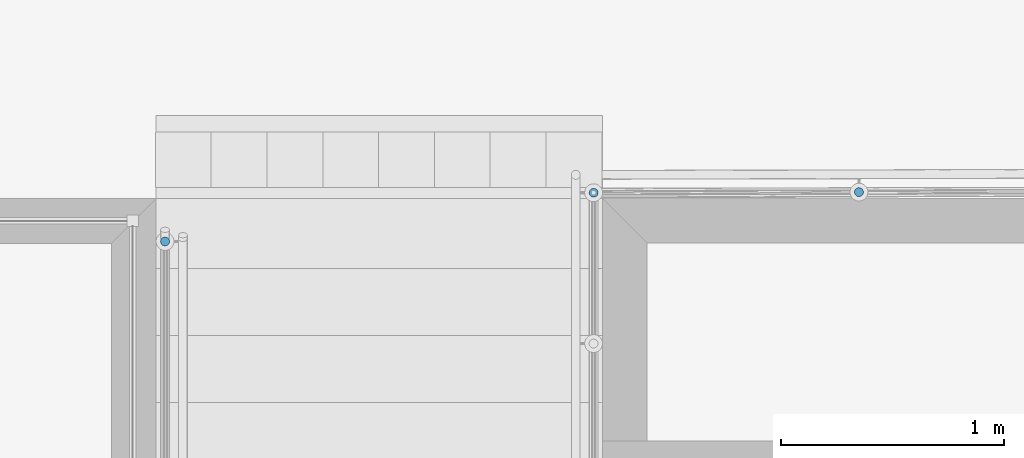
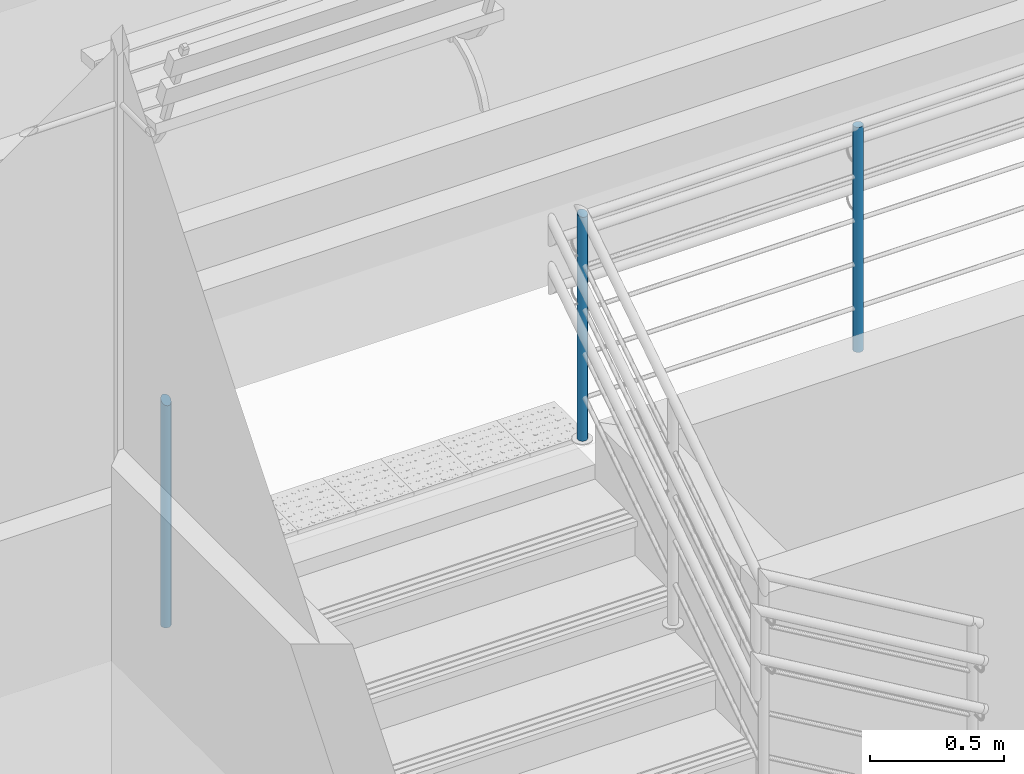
# One storey, part 67 of 237: 3 building element parts, 2 elements without a shape of their own.
"""IFC2X3 building model written with IfcOpenShell, lengths in millimetres."""

from ifc_helpers import new_model, entity, si_unit, converted_unit, derived_unit, money_unit, direction, frame, origin_with_axes, place, context, subcontext, project, spatial, faceted_brep, material, type_object, element, aggregate, save


model = new_model("IFC2X3")

# Units and contexts
model_context = context("Model", 3, precision=0.01, world=origin_with_axes(), true_north=direction((0.0, 1.0)))
body_context = subcontext(model_context, "Body", "Model", "MODEL_VIEW")
ifc_project = project(units=[si_unit("LENGTHUNIT", "METRE", prefix="MILLI"), si_unit("AREAUNIT", "SQUARE_METRE"), si_unit("VOLUMEUNIT", "CUBIC_METRE"), converted_unit("PLANEANGLEUNIT", "DEGREE", entity("IfcPlaneAngleMeasure", 0.0174532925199), si_unit("PLANEANGLEUNIT", "RADIAN"), dimensions=[0, 0, 0, 0, 0, 0, 0]), money_unit("USD"), converted_unit("TIMEUNIT", "Year", entity("IfcTimeMeasure", 31556926.0), si_unit("TIMEUNIT", "SECOND"), dimensions=[0, 0, 1, 0, 0, 0, 0]), si_unit("MASSUNIT", "GRAM", prefix="KILO"), si_unit("THERMODYNAMICTEMPERATUREUNIT", "DEGREE_CELSIUS"), si_unit("LUMINOUSINTENSITYUNIT", "LUMEN"), si_unit("ENERGYUNIT", "JOULE", prefix="MEGA"), derived_unit("THERMALCONDUCTANCEUNIT", [(si_unit("POWERUNIT", "WATT"), 1), (si_unit("LENGTHUNIT", "METRE"), -1), (si_unit("THERMODYNAMICTEMPERATUREUNIT", "KELVIN"), -1)]), derived_unit("SPECIFICHEATCAPACITYUNIT", [(si_unit("ENERGYUNIT", "JOULE"), 1), (si_unit("MASSUNIT", "GRAM", prefix="KILO"), -1), (si_unit("THERMODYNAMICTEMPERATUREUNIT", "KELVIN"), -1)]), derived_unit("MASSDENSITYUNIT", [(si_unit("MASSUNIT", "GRAM", prefix="KILO"), 1), (si_unit("VOLUMEUNIT", "CUBIC_METRE"), -1)])], contexts=[model_context])

# Site, building, storey
site_placement = place(None, origin_with_axes())
site = spatial("IfcSite", under=ifc_project, at=site_placement, Name="Local", CompositionType="ELEMENT")
building_placement = place(site_placement, origin_with_axes())
building = spatial("IfcBuilding", under=site, at=building_placement, Name="Construção", CompositionType="ELEMENT")
storey_placement = place(building_placement, origin_with_axes())
storey = spatial("IfcBuildingStorey", under=building, at=storey_placement, Name="Pavimento Térreo", CompositionType="ELEMENT", Elevation=0.0)

# Railing, building element part
railing_type = type_object("IfcRailingType", Name="Tipo de Guarda-Corpo", PredefinedType="NOTDEFINED")
railing_1_placement = place(storey_placement, frame((77071.0413397, 23732.4143775, -4865.39060156), z_axis=(0.0, 0.0, 1.0), x_axis=(1.0, 0.0, 0.0)))
railing_1 = element("IfcRailing", 1, at=railing_1_placement, inside=storey, type_object=railing_type, Name="Guarda-Corpo - 001", PredefinedType="NOTDEFINED")
ifc_material = material(Name="Aço - Inoxidável")
building_element_part_1_placement = place(railing_1_placement, origin_with_axes())
building_element_part_1 = element("IfcBuildingElementPart", 2, at=building_element_part_1_placement, material=ifc_material, Name="Aço - Inoxidável", context=body_context, shape_type="Brep", body=[
    faceted_brep([(1718.22200306, -263.165340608, 1331.15703693), (1717.91815812, -266.638304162, 1331.15703693), (1717.91815812, -266.638304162, 2356.15703693), (1718.22200306, -263.165340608, 2358.66130091), (1718.22200306, -270.111267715, 1331.15703693), (1719.12430571, -259.797901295, 1331.15703693), (1720.59765005, -256.638304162, 1331.15703693), (1722.59726926, -253.782551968, 1331.15703693), (1725.06240593, -251.317415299, 1331.15703693), (1727.91815812, -249.317796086, 1331.15703693), (1731.07775526, -247.844451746, 1331.15703693), (1734.44519457, -246.942149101, 1331.15703693), (1737.91815812, -246.638304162, 1331.15703693), (1741.39112168, -246.942149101, 1331.15703693), (1744.75856099, -247.844451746, 1331.15703693), (1747.91815812, -249.317796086, 1331.15703693), (1750.77391032, -251.317415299, 1331.15703693), (1753.23904699, -253.782551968, 1331.15703693), (1755.2386662, -256.638304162, 1331.15703693), (1756.71201054, -259.797901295, 1331.15703693), (1757.61431318, -263.165340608, 1331.15703693), (1757.91815812, -266.638304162, 1331.15703693), (1757.61431318, -270.111267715, 1331.15703693), (1756.71201054, -273.478707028, 1331.15703693), (1755.2386662, -276.638304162, 1331.15703693), (1753.23904699, -279.494056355, 1331.15703693), (1750.77391032, -281.959193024, 1331.15703693), (1747.91815812, -283.958812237, 1331.15703693), (1744.75856099, -285.432156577, 1331.15703693), (1741.39112168, -286.334459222, 1331.15703693), (1737.91815812, -286.638304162, 1331.15703693), (1734.44519457, -286.334459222, 1331.15703693), (1731.07775526, -285.432156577, 1331.15703693), (1727.91815812, -283.958812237, 1331.15703693), (1725.06240593, -281.959193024, 1331.15703693), (1722.59726926, -279.494056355, 1331.15703693), (1720.59765005, -276.638304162, 1331.15703693), (1719.12430571, -273.478707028, 1331.15703693), (1718.22200306, -270.111267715, 2353.65277294), (1741.39112168, -246.942149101, 2370.35942375), (1737.91815812, -246.638304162, 2370.57851846), (1734.44519457, -246.942149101, 2370.35942375), (1731.07775526, -247.844451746, 2369.70879671), (1727.91815812, -249.317796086, 2368.6464063), (1725.06240593, -251.317415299, 2367.20453272), (1722.59726926, -253.782551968, 2365.42698657), (1720.59765005, -256.638304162, 2363.36777769), (1719.12430571, -259.797901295, 2361.08947411), (1719.12430571, -273.478707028, 2351.22459974), (1720.59765005, -276.638304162, 2348.94629616), (1722.59726926, -279.494056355, 2346.88708728), (1725.06240593, -281.959193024, 2345.10954113), (1727.91815812, -283.958812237, 2343.66766756), (1731.07775526, -285.432156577, 2342.60527715), (1734.44519457, -286.334459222, 2341.9546501), (1737.91815812, -286.638304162, 2341.73555539), (1741.39112168, -286.334459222, 2341.9546501), (1744.75856099, -285.432156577, 2342.60527715), (1747.91815812, -283.958812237, 2343.66766756), (1750.77391032, -281.959193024, 2345.10954113), (1753.23904699, -279.494056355, 2346.88708728), (1755.2386662, -276.638304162, 2348.94629616), (1756.71201054, -273.478707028, 2351.22459974), (1757.61431318, -270.111267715, 2353.65277294), (1757.91815812, -266.638304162, 2356.15703693), (1757.61431318, -263.165340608, 2358.66130091), (1756.71201054, -259.797901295, 2361.08947411), (1755.2386662, -256.638304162, 2363.36777769), (1753.23904699, -253.782551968, 2365.42698657), (1750.77391032, -251.317415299, 2367.20453272), (1747.91815812, -249.317796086, 2368.6464063), (1744.75856099, -247.844451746, 2369.70879671)], [[[0, 1, 2, 3]], [[4, 1, 0, 5, 6, 7, 8, 9, 10, 11, 12, 13, 14, 15, 16, 17, 18, 19, 20, 21, 22, 23, 24, 25, 26, 27, 28, 29, 30, 31, 32, 33, 34, 35, 36, 37]], [[1, 4, 38, 2]], [[39, 40, 41, 42, 43, 44, 45, 46, 47, 3, 2, 38, 48, 49, 50, 51, 52, 53, 54, 55, 56, 57, 58, 59, 60, 61, 62, 63, 64, 65, 66, 67, 68, 69, 70, 71]], [[5, 0, 3, 47]], [[6, 5, 47, 46]], [[7, 6, 46, 45]], [[8, 7, 45, 44]], [[9, 8, 44, 43]], [[10, 9, 43, 42]], [[11, 10, 42, 41]], [[12, 11, 41, 40]], [[13, 12, 40, 39]], [[14, 13, 39, 71]], [[15, 14, 71, 70]], [[16, 15, 70, 69]], [[17, 16, 69, 68]], [[18, 17, 68, 67]], [[19, 18, 67, 66]], [[20, 19, 66, 65]], [[21, 20, 65, 64]], [[22, 21, 64, 63]], [[23, 22, 63, 62]], [[24, 23, 62, 61]], [[25, 24, 61, 60]], [[26, 25, 60, 59]], [[27, 26, 59, 58]], [[28, 27, 58, 57]], [[29, 28, 57, 56]], [[30, 29, 56, 55]], [[31, 30, 55, 54]], [[32, 31, 54, 53]], [[33, 32, 53, 52]], [[34, 33, 52, 51]], [[35, 34, 51, 50]], [[36, 35, 50, 49]], [[37, 36, 49, 48]], [[4, 37, 48, 38]]]),
])
aggregate(railing_1, [building_element_part_1])

# Railing, building element parts
railing_2_placement = place(storey_placement, frame((84562.8908804, 21657.2175927, -4868.39227091), z_axis=(0.0, 0.0, 1.0), x_axis=(1.0, 0.0, 0.0)))
railing_2 = element("IfcRailing", 3, at=railing_2_placement, inside=storey, type_object=railing_type, Name="Guarda-Corpo - 002", PredefinedType="NOTDEFINED")
building_element_part_2_placement = place(railing_2_placement, origin_with_axes())
building_element_part_2 = element("IfcBuildingElementPart", 4, at=building_element_part_2_placement, material=ifc_material, Name="Aço - Inoxidável", context=body_context, shape_type="Brep", body=[
    faceted_brep([(-3814.23522961, 2023.39585157, 1379.42107865), (-3813.93138467, 2026.86881522, 1379.42107865), (-3813.93138472, 2026.87021268, 2404.41637341), (-3814.23522966, 2023.39722779, 2403.37994528), (-3814.23522961, 2030.34177867, 1379.42107865), (-3815.13753226, 2020.02841196, 1379.42107865), (-3816.6037102, 2016.8841832, 1379.42107865), (-3816.6108766, 2016.86881433, 1379.42107865), (-3818.60076067, 2014.02696535, 1379.42107865), (-3818.61049581, 2014.01306145, 1379.42107865), (-3821.06362101, 2011.55993625, 1379.42107865), (-3821.07563248, 2011.54792395, 1379.42107865), (-3823.91745994, 2009.55805493, 1379.42107865), (-3823.93138467, 2009.54830376, 1379.42107865), (-3827.07556656, 2008.08214767, 1379.42107865), (-3827.09098181, 2008.07495834, 1379.42107865), (-3830.44198479, 2007.17705979, 1379.42107865), (-3830.45842112, 2007.17265454, 1379.42107865), (-3833.91442884, 2006.87029304, 1379.42107865), (-3833.93138467, 2006.86880841, 1379.42107865), (-3837.38739091, 2007.17116977, 1379.42107865), (-3837.40434823, 2007.17265216, 1379.42107865), (-3840.75534693, 2008.07054955, 1379.42107865), (-3840.77178754, 2008.07495365, 1379.42107865), (-3843.91596286, 2009.54110668, 1379.42107865), (-3843.93138467, 2009.54829691, 1379.42107865), (-3846.7732041, 2011.53816029, 1379.42107865), (-3846.78713687, 2011.54791514, 1379.42107865), (-3849.24025353, 2014.0010318, 1379.42107865), (-3849.25227353, 2014.01305097, 1379.42107865), (-3851.2421496, 2016.85488851, 1379.42107865), (-3851.25189275, 2016.86880249, 1379.42107865), (-3852.71806417, 2020.01301726, 1379.42107865), (-3852.72523709, 2020.02839912, 1379.42107865), (-3853.62753973, 2023.39583813, 1379.42107865), (-3853.93138467, 2026.86880159, 1379.42107865), (-3853.62753973, 2030.34176525, 1379.42107865), (-3852.72523709, 2033.70920488, 1379.42107865), (-3851.25903073, 2036.85349457, 1379.42107865), (-3851.25189275, 2036.86880252, 1379.42107865), (-3849.26195234, 2039.71073195, 1379.42107865), (-3849.25227353, 2039.7245554, 1379.42107865), (-3846.7990591, 2042.17776984, 1379.42107865), (-3846.78713687, 2042.18969291, 1379.42107865), (-3843.94518624, 2044.17964816, 1379.42107865), (-3843.93138467, 2044.18931309, 1379.42107865), (-3840.78704876, 2045.65554101, 1379.42107865), (-3840.77178754, 2045.6626585, 1379.42107865), (-3837.42060646, 2046.56060477, 1379.42107865), (-3837.40434823, 2046.56496229, 1379.42107865), (-3833.94814804, 2046.86734063, 1379.42107865), (-3833.93138467, 2046.86880841, 1379.42107865), (-3830.47518303, 2046.56642994, 1379.42107865), (-3830.45842112, 2046.56496464, 1379.42107865), (-3827.10723585, 2045.66701726, 1379.42107865), (-3827.09098181, 2045.66266314, 1379.42107865), (-3823.94663947, 2044.19643223, 1379.42107865), (-3823.93138467, 2044.18931987, 1379.42107865), (-3821.08942616, 2042.1993591, 1379.42107865), (-3821.07563248, 2042.18970163, 1379.42107865), (-3818.62240964, 2039.73647879, 1379.42107865), (-3818.61049581, 2039.7245658, 1379.42107865), (-3816.6205475, 2036.88262508, 1379.42107865), (-3816.6108766, 2036.86881429, 1379.42107865), (-3815.14466378, 2033.72451076, 1379.42107865), (-3815.13753226, 2033.70921767, 1379.42107865), (-3814.23522966, 2030.3431549, 2405.4529445), (-3837.40434822, 2007.1724095, 2398.5436143), (-3833.93138467, 2006.86880841, 2398.45211527), (-3830.45842113, 2007.1728972, 2398.54198018), (-3827.09098182, 2008.07543628, 2398.81047852), (-3823.9313847, 2009.54900247, 2399.24945211), (-3821.07563251, 2011.54882219, 2399.84556295), (-3818.61049585, 2014.01413195, 2400.58069852), (-3816.61087664, 2016.87002454, 2401.4325221), (-3815.1375323, 2020.02972512, 2402.37515146), (-3815.1375323, 2033.71053086, 2406.45816288), (-3816.61087664, 2036.87002454, 2407.40148548), (-3818.61049585, 2039.72563633, 2408.25424992), (-3821.07563251, 2042.19059992, 2408.9905454), (-3823.9313847, 2044.19001862, 2409.58799994), (-3827.09098182, 2045.66314111, 2410.0284602), (-3830.45842113, 2046.56520732, 2410.298543), (-3833.93138467, 2046.86880841, 2410.39004202), (-3837.40434822, 2046.56471962, 2410.30017712), (-3840.77178752, 2045.66218053, 2410.03167877), (-3843.93138465, 2044.18861435, 2409.59270519), (-3846.78713683, 2042.18879462, 2408.99659435), (-3849.2522735, 2039.72348487, 2408.26145878), (-3851.2518927, 2036.86759227, 2407.4096352), (-3852.72523704, 2033.70789169, 2406.46700584), (-3853.62753968, 2030.34038902, 2405.46221202), (-3853.93138462, 2026.86740414, 2404.42578389), (-3853.62753968, 2023.39446192, 2403.3892128), (-3852.72523704, 2020.02708596, 2402.38399442), (-3851.2518927, 2016.86759227, 2401.44067182), (-3849.2522735, 2014.01198048, 2400.58790738), (-3846.78713683, 2011.5470169, 2399.8516119), (-3843.93138465, 2009.5475982, 2399.25415735), (-3840.77178752, 2008.0744757, 2398.8136971)], [[[0, 1, 2, 3]], [[4, 1, 0, 5, 6, 7, 8, 9, 10, 11, 12, 13, 14, 15, 16, 17, 18, 19, 20, 21, 22, 23, 24, 25, 26, 27, 28, 29, 30, 31, 32, 33, 34, 35, 36, 37, 38, 39, 40, 41, 42, 43, 44, 45, 46, 47, 48, 49, 50, 51, 52, 53, 54, 55, 56, 57, 58, 59, 60, 61, 62, 63, 64, 65]], [[1, 4, 66, 2]], [[67, 68, 69, 70, 71, 72, 73, 74, 75, 3, 2, 66, 76, 77, 78, 79, 80, 81, 82, 83, 84, 85, 86, 87, 88, 89, 90, 91, 92, 93, 94, 95, 96, 97, 98, 99]], [[5, 0, 3, 75]], [[6, 5, 75]], [[7, 6, 75, 74]], [[8, 7, 74]], [[9, 8, 74, 73]], [[10, 9, 73]], [[11, 10, 73, 72]], [[12, 11, 72]], [[13, 12, 72, 71]], [[14, 13, 71]], [[15, 14, 71, 70]], [[16, 15, 70]], [[17, 16, 70, 69]], [[18, 17, 69]], [[19, 18, 69, 68]], [[20, 19, 68]], [[21, 20, 68, 67]], [[22, 21, 67]], [[23, 22, 67, 99]], [[24, 23, 99]], [[25, 24, 99, 98]], [[26, 25, 98]], [[27, 26, 98, 97]], [[28, 27, 97]], [[29, 28, 97, 96]], [[30, 29, 96]], [[31, 30, 96, 95]], [[32, 31, 95]], [[33, 32, 95, 94]], [[34, 33, 94, 93]], [[35, 34, 93, 92]], [[36, 35, 92, 91]], [[37, 36, 91, 90]], [[38, 37, 90]], [[39, 38, 90, 89]], [[40, 39, 89]], [[41, 40, 89, 88]], [[42, 41, 88]], [[43, 42, 88, 87]], [[44, 43, 87]], [[45, 44, 87, 86]], [[46, 45, 86]], [[47, 46, 86, 85]], [[48, 47, 85]], [[49, 48, 85, 84]], [[50, 49, 84]], [[51, 50, 84, 83]], [[52, 51, 83]], [[53, 52, 83, 82]], [[54, 53, 82]], [[55, 54, 82, 81]], [[56, 55, 81]], [[57, 56, 81, 80]], [[58, 57, 80]], [[59, 58, 80, 79]], [[60, 59, 79]], [[61, 60, 79, 78]], [[62, 61, 78]], [[63, 62, 78, 77]], [[64, 63, 77]], [[65, 64, 77, 76]], [[4, 65, 76, 66]]]),
])
building_element_part_3_placement = place(railing_2_placement, origin_with_axes())
building_element_part_3 = element("IfcBuildingElementPart", 5, at=building_element_part_3_placement, material=ifc_material, Name="Aço - Inoxidável", context=body_context, shape_type="Brep", body=[
    faceted_brep([(-2648.47504566, 2009.75967083, 1365.79438018), (-2645.00142729, 2009.46340577, 1365.79438018), (-2645.00142729, 2009.46340577, 2390.79438018), (-2648.47504566, 2009.75967083, 2390.7960143), (-2641.52913509, 2009.77482914, 1365.79438018), (-2651.84444608, 2010.65462245, 1365.79438018), (-2655.00725101, 2012.121068, 1365.79438018), (-2657.86736024, 2014.11445025, 1365.79438018), (-2660.33787078, 2016.57420131, 1365.79438018), (-2662.34371743, 2019.42558287, 1365.79438018), (-2663.82395355, 2022.58195715, 1365.79438018), (-2664.73360291, 2025.94741933, 1365.79438018), (-2665.04502628, 2029.41971152, 1365.79438018), (-2664.74876122, 2032.89332989, 1365.79438018), (-2663.85380959, 2036.26273031, 1365.79438018), (-2662.38736405, 2039.42553524, 1365.79438018), (-2660.39398179, 2042.28564447, 1365.79438018), (-2657.93423074, 2044.75615501, 1365.79438018), (-2655.08284918, 2046.76200166, 1365.79438018), (-2651.92647489, 2048.24223778, 1365.79438018), (-2648.56101272, 2049.15188714, 1365.79438018), (-2645.08872053, 2049.46331051, 1365.79438018), (-2641.61510216, 2049.16704545, 1365.79438018), (-2638.24570174, 2048.27209383, 1365.79438018), (-2635.0828968, 2046.80564828, 1365.79438018), (-2632.22278758, 2044.81226603, 1365.79438018), (-2629.75227704, 2042.35251497, 1365.79438018), (-2627.74643039, 2039.50113341, 1365.79438018), (-2626.26619427, 2036.34475913, 1365.79438018), (-2625.35654491, 2032.97929696, 1365.79438018), (-2625.04512153, 2029.50700476, 1365.79438018), (-2625.34138659, 2026.03338639, 1365.79438018), (-2626.23633822, 2022.66398597, 1365.79438018), (-2627.70278377, 2019.50118104, 1365.79438018), (-2629.69616602, 2016.64107181, 1365.79438018), (-2632.15591707, 2014.17056127, 1365.79438018), (-2635.00729864, 2012.16471462, 1365.79438018), (-2638.16367292, 2010.6844785, 1365.79438018), (-2641.52913509, 2009.77482914, 2390.79274606), (-2664.74876122, 2032.89332989, 2390.80364772), (-2665.04502628, 2029.41971152, 2390.80379069), (-2664.73360291, 2025.94741933, 2390.80364772), (-2663.82395355, 2022.58195715, 2390.80322316), (-2662.34371743, 2019.42558287, 2390.80252992), (-2660.33787078, 2016.57420131, 2390.80158904), (-2657.86736024, 2014.11445025, 2390.80042914), (-2655.00725101, 2012.121068, 2390.79908543), (-2651.84444608, 2010.65462245, 2390.79759876), (-2638.16367292, 2010.6844785, 2390.79116159), (-2635.00729864, 2012.16471462, 2390.78967492), (-2632.15591707, 2014.17056127, 2390.78833122), (-2629.69616602, 2016.64107181, 2390.78717131), (-2627.70278377, 2019.50118104, 2390.78623044), (-2626.23633822, 2022.66398597, 2390.78553719), (-2625.34138659, 2026.03338639, 2390.78511264), (-2625.04512153, 2029.50700476, 2390.78496967), (-2625.35654491, 2032.97929696, 2390.78511264), (-2626.26619427, 2036.34475913, 2390.78553719), (-2627.74643039, 2039.50113341, 2390.78623044), (-2629.75227704, 2042.35251497, 2390.78717131), (-2632.22278758, 2044.81226603, 2390.78833122), (-2635.0828968, 2046.80564828, 2390.78967492), (-2638.24570174, 2048.27209383, 2390.79116159), (-2641.61510216, 2049.16704545, 2390.79274606), (-2645.08872053, 2049.46331051, 2390.79438018), (-2648.56101272, 2049.15188714, 2390.7960143), (-2651.92647489, 2048.24223778, 2390.79759876), (-2655.08284918, 2046.76200166, 2390.79908543), (-2657.93423074, 2044.75615501, 2390.80042914), (-2660.39398179, 2042.28564447, 2390.80158904), (-2662.38736405, 2039.42553524, 2390.80252992), (-2663.85380959, 2036.26273031, 2390.80322316)], [[[0, 1, 2, 3]], [[4, 1, 0, 5, 6, 7, 8, 9, 10, 11, 12, 13, 14, 15, 16, 17, 18, 19, 20, 21, 22, 23, 24, 25, 26, 27, 28, 29, 30, 31, 32, 33, 34, 35, 36, 37]], [[1, 4, 38, 2]], [[39, 40, 41, 42, 43, 44, 45, 46, 47, 3, 2, 38, 48, 49, 50, 51, 52, 53, 54, 55, 56, 57, 58, 59, 60, 61, 62, 63, 64, 65, 66, 67, 68, 69, 70, 71]], [[5, 0, 3, 47]], [[6, 5, 47, 46]], [[7, 6, 46, 45]], [[8, 7, 45, 44]], [[9, 8, 44, 43]], [[10, 9, 43, 42]], [[11, 10, 42, 41]], [[12, 11, 41, 40]], [[13, 12, 40, 39]], [[14, 13, 39, 71]], [[15, 14, 71, 70]], [[16, 15, 70, 69]], [[17, 16, 69, 68]], [[18, 17, 68, 67]], [[19, 18, 67, 66]], [[20, 19, 66, 65]], [[21, 20, 65, 64]], [[22, 21, 64, 63]], [[23, 22, 63, 62]], [[24, 23, 62, 61]], [[25, 24, 61, 60]], [[26, 25, 60, 59]], [[27, 26, 59, 58]], [[28, 27, 58, 57]], [[29, 28, 57, 56]], [[30, 29, 56, 55]], [[31, 30, 55, 54]], [[32, 31, 54, 53]], [[33, 32, 53, 52]], [[34, 33, 52, 51]], [[35, 34, 51, 50]], [[36, 35, 50, 49]], [[37, 36, 49, 48]], [[4, 37, 48, 38]]]),
])
aggregate(railing_2, [building_element_part_2, building_element_part_3])

save(model, "model.ifc")
